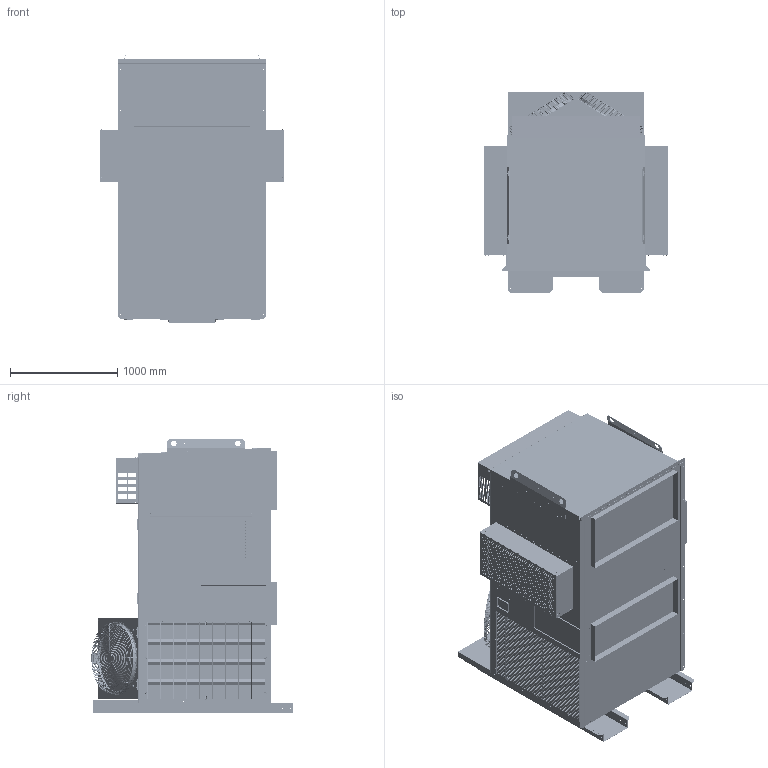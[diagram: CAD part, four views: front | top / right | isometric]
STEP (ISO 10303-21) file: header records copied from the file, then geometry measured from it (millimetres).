
FILE_DESCRIPTION (( 'STEP AP214' ), '1' );
FILE_NAME ('MGA3120 B2 RF ECONO.STEP', '2023-05-26T15:16:56', ( '' ), ( '' ), 'SwSTEP 2.0', 'SolidWorks 2022', '' );
FILE_SCHEMA (( 'AUTOMOTIVE_DESIGN' ));
Length unit declared in the file: inch
Products named in the file (102): SML12006X; SML13026X; Southco-E3-19-35_E3_SHAFT_CLF; MD13633; Southco-E3-19-35_E3_ LOCK - 9; MD12316; SML18012X; BLADE PIN^80987; SML45065X; MD09243-IN; SML23034X; Southco-E3-19-35_Lock Washer-3; SML23006X; SML45072X; 70203; MD13590; 93250 PART 2^93250; 91039; SML45062X; SML45063X; MD12321; SEAL, UPPER^80987; Southco-E3-19-35_E5-17_Flange_Seal_Gasket; MD14192; MD12317; MD14193; 93273; BRACKET^40255-CLAMP; 90740_THREADS; ND04671; 40255-CLAMP; MD13590_MD13586; BLADE^80987; SML45064X; 93250; SML13026X_SML13026X-IN; 93187; MD13588; LIP^40255-CLAMP; 02146_FLEXIBLE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
Assembly tree (156 placements, depth 6):
  MGA3120 B2 RF ECONO
    MD09172
    MD09243-IN  x2
      MD09243
    MD11715_MD11715-SW  x2
      MD11715
      MD11716
    MD13588
    MD13590_MD13586
      MD13590
      ND04671
    MD13633
    MD14192  x2
    MD14193  x2
    SML11001X  x2
    SML11003X
    SML11004X
    SML12004X
    SML12005X
    SML12006X
    SML22003X_SML22003X-IN
      SML22003X
    SML23006X
    SML23007X
    SNL23007A
    SML23008X  x2
    SML23014X
    SML23032X
      SML23032X
      91039  x3
        Southco-E3-19-35_E3_HARDWARE_PACKAGE_SINGLE_HOLE_MOUNDT_CLF(35)
          Southco-E3-19-35_Lock Washer-3  x2
          Southco-E3-19-35_E3_STANDARD_METRIC_JAM&NUT_CLF-3  x2
          Southco-E3-19-35_e3_m22_hex_nut_clf-3
          Southco-E3-19-35_e3_int_tooth_lk_wshr_clf-3
          Southco-E3-19-35_E3_PAWL_CLF3-2
        Southco-E3-19-35_lock(95)
          Southco-E3-19-35_E3_ LOCK - 9
        Southco-E3-19-35_e3_housing_clf
        Southco-E3-19-35_E3_SHAFT_CLF
        Southco-E3-19-35_E5-17_Flange_Seal_Gasket
      02146_FLEXIBLE  x2
        02146 RH BOTTOM
        02146 RH TOP
    SML45061X  x2
    SML45062X
    SML45063X
    SML45064X
    SML45065X
    SML45071X
    SML45072X
    02146_FLEXIBLE
      02146 RH BOTTOM
      02146 RH TOP
    02146_FLEXIBLE
      02146 RH BOTTOM
      02146 RH TOP
    93250  x2
      93250 PART 1^93250
      93250 PART 2^93250
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Bounding box: 1718.56 x 1874.11 x 2554.3 mm (x, y, z)
Volume: 3764863403.6 mm3; surface area: 74331741.7 mm2
Topology: 463 solids, 507 shells, 26079 faces, 68079 edges, 42741 vertices
Faces by surface type: plane 12305, cylinder 8848, bspline 2972, cone 1304, torus 602, sphere 48
Entity records: 606457 total; most frequent: CARTESIAN_POINT 165747, ORIENTED_EDGE 78852, DIRECTION 72723, EDGE_CURVE 39451, VERTEX_POINT 25120, VECTOR 24537, LINE 24537, AXIS2_PLACEMENT_3D 24093
